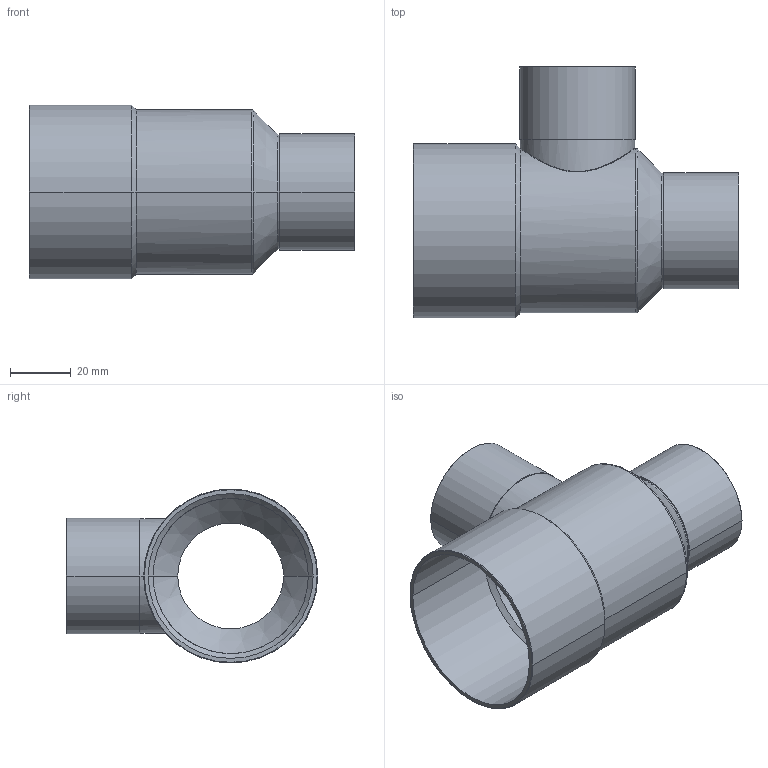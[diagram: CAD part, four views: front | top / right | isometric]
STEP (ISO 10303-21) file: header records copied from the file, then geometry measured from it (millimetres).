
FILE_DESCRIPTION((''),'2;1');
FILE_NAME('G:\Technics\CAD\Bauteile\15130\15130543535.stp','2005-11-03T13:43:17',('boden'),(''),'Autodesk Inventor 8','Autodesk Inventor 8','');
FILE_SCHEMA(('AUTOMOTIVE_DESIGN { 1 0 10303 214 1 1 1 1 }'));
Length unit declared in the file: millimetre
Products named in the file (1): 15130543535
Bounding box: 107 x 82.58 x 57.15 mm (x, y, z)
Volume: 28936.1 mm3; surface area: 39580.6 mm2
Topology: 1 solids, 1 shells, 57 faces, 131 edges, 75 vertices
Faces by surface type: cone 26, cylinder 24, plane 3, torus 2, bspline 2
Entity records: 2157 total; most frequent: CARTESIAN_POINT 838, DIRECTION 289, ORIENTED_EDGE 262, EDGE_CURVE 131, AXIS2_PLACEMENT_3D 120, VERTEX_POINT 75, CIRCLE 64, EDGE_LOOP 60
